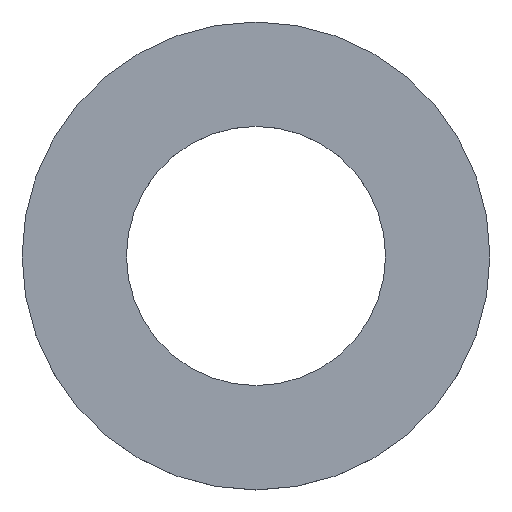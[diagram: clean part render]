
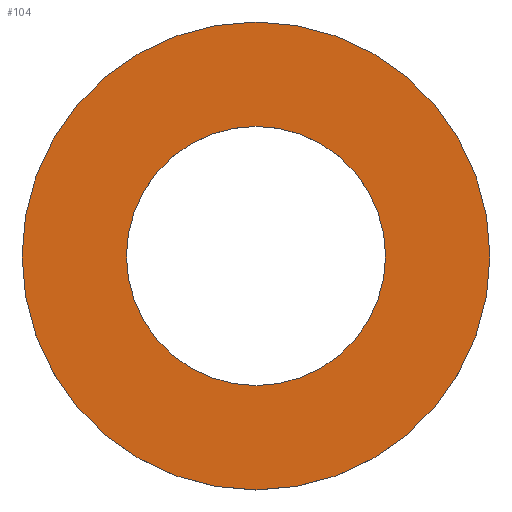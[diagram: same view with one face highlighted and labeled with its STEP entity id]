
A CAD part, top view. The second image highlights one B-rep face of the part: STEP entity #104.
In plain terms, the highlighted planar face has unit normal (0, 0, 1).
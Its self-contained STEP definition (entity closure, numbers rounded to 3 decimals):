
#2 = DIRECTION ( 'NONE',  ( 1., 0., 0. ) ) ;
#16 = DIRECTION ( 'NONE',  ( 1., 0., 0. ) ) ;
#23 = AXIS2_PLACEMENT_3D ( 'NONE', #213, #53, #2 ) ;
#35 = AXIS2_PLACEMENT_3D ( 'NONE', #155, #156, #78 ) ;
#38 = VERTEX_POINT ( 'NONE', #194 ) ;
#45 = DIRECTION ( 'NONE',  ( 0., 0., 1. ) ) ;
#49 = EDGE_CURVE ( 'NONE', #146, #38, #186, .T. ) ;
#53 = DIRECTION ( 'NONE',  ( 0., 0., 1. ) ) ;
#59 = VERTEX_POINT ( 'NONE', #168 ) ;
#60 = AXIS2_PLACEMENT_3D ( 'NONE', #133, #119, #129 ) ;
#66 = CARTESIAN_POINT ( 'NONE',  ( 0., 0., 2. ) ) ;
#67 = PLANE ( 'NONE',  #60 ) ;
#70 = CIRCLE ( 'NONE', #35, 16.25 ) ;
#71 = EDGE_CURVE ( 'NONE', #141, #59, #198, .T. ) ;
#72 = FACE_BOUND ( 'NONE', #159, .T. ) ;
#78 = DIRECTION ( 'NONE',  ( 1., 0., 0. ) ) ;
#96 = ORIENTED_EDGE ( 'NONE', *, *, #49, .T. ) ;
#100 = AXIS2_PLACEMENT_3D ( 'NONE', #101, #195, #166 ) ;
#101 = CARTESIAN_POINT ( 'NONE',  ( 0., 0., 2. ) ) ;
#104 = ADVANCED_FACE ( 'NONE', ( #115, #72 ), #67, .T. ) ;
#114 = ORIENTED_EDGE ( 'NONE', *, *, #71, .F. ) ;
#115 = FACE_OUTER_BOUND ( 'NONE', #205, .T. ) ;
#116 = CIRCLE ( 'NONE', #209, 9. ) ;
#119 = DIRECTION ( 'NONE',  ( 0., 0., 1. ) ) ;
#122 = EDGE_CURVE ( 'NONE', #59, #141, #116, .T. ) ;
#129 = DIRECTION ( 'NONE',  ( 1., 0., 0. ) ) ;
#133 = CARTESIAN_POINT ( 'NONE',  ( 0., 0., 2. ) ) ;
#141 = VERTEX_POINT ( 'NONE', #214 ) ;
#146 = VERTEX_POINT ( 'NONE', #172 ) ;
#155 = CARTESIAN_POINT ( 'NONE',  ( 0., 0., 2. ) ) ;
#156 = DIRECTION ( 'NONE',  ( 0., 0., 1. ) ) ;
#159 = EDGE_LOOP ( 'NONE', ( #114, #175 ) ) ;
#166 = DIRECTION ( 'NONE',  ( 1., 0., 0. ) ) ;
#168 = CARTESIAN_POINT ( 'NONE',  ( 9., 0., 2. ) ) ;
#172 = CARTESIAN_POINT ( 'NONE',  ( -16.25, 0., 2. ) ) ;
#174 = ORIENTED_EDGE ( 'NONE', *, *, #211, .T. ) ;
#175 = ORIENTED_EDGE ( 'NONE', *, *, #122, .F. ) ;
#186 = CIRCLE ( 'NONE', #23, 16.25 ) ;
#194 = CARTESIAN_POINT ( 'NONE',  ( 16.25, 0., 2. ) ) ;
#195 = DIRECTION ( 'NONE',  ( 0., 0., 1. ) ) ;
#198 = CIRCLE ( 'NONE', #100, 9. ) ;
#205 = EDGE_LOOP ( 'NONE', ( #96, #174 ) ) ;
#209 = AXIS2_PLACEMENT_3D ( 'NONE', #66, #45, #16 ) ;
#211 = EDGE_CURVE ( 'NONE', #38, #146, #70, .T. ) ;
#213 = CARTESIAN_POINT ( 'NONE',  ( 0., 0., 2. ) ) ;
#214 = CARTESIAN_POINT ( 'NONE',  ( -9., 0., 2. ) ) ;
